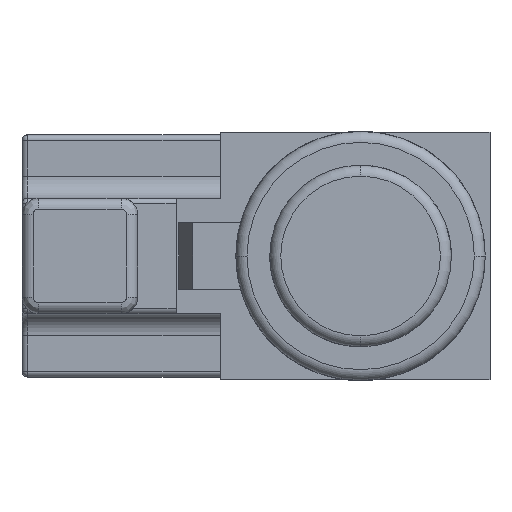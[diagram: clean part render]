
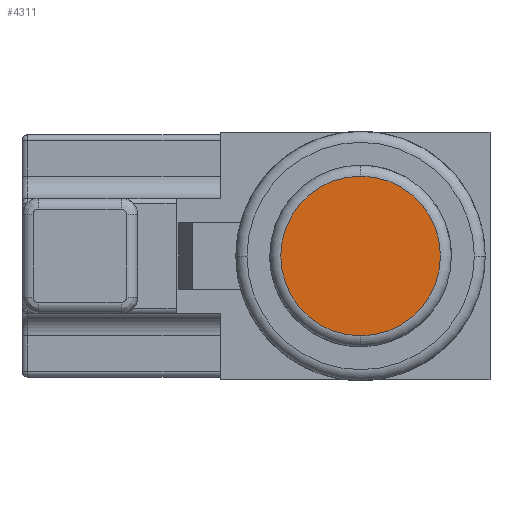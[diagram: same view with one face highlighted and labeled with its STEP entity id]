
A CAD part, left-side view. The second image highlights one B-rep face of the part: STEP entity #4311.
In plain terms, the highlighted planar face has unit normal (-1, 0, 0).
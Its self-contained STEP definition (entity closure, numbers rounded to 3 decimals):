
#46=CARTESIAN_POINT('',(-116.1,0.,0.));
#47=DIRECTION('',(1.,0.,0.));
#48=DIRECTION('',(0.,0.,1.));
#49=AXIS2_PLACEMENT_3D('',#46,#47,#48);
#51=CARTESIAN_POINT('',(-116.1,0.,0.));
#52=DIRECTION('',(1.,0.,0.));
#53=DIRECTION('',(0.,-1.,-0.001));
#54=AXIS2_PLACEMENT_3D('',#51,#52,#53);
#56=CARTESIAN_POINT('',(-116.1,0.,0.));
#57=DIRECTION('',(1.,0.,0.));
#58=DIRECTION('',(0.,0.,-1.));
#59=AXIS2_PLACEMENT_3D('',#56,#57,#58);
#61=CARTESIAN_POINT('',(-116.1,0.,0.));
#62=DIRECTION('',(1.,0.,0.));
#63=DIRECTION('',(0.,1.,0.001));
#64=AXIS2_PLACEMENT_3D('',#61,#62,#63);
#4056=CARTESIAN_POINT('',(-116.1,-14.5,-0.019));
#4057=CARTESIAN_POINT('',(-116.1,0.,-14.5));
#4058=VERTEX_POINT('',#4056);
#4059=VERTEX_POINT('',#4057);
#4060=CARTESIAN_POINT('',(-116.1,0.,14.5));
#4061=VERTEX_POINT('',#4060);
#4062=CARTESIAN_POINT('',(-116.1,14.5,0.019));
#4063=VERTEX_POINT('',#4062);
#4298=CARTESIAN_POINT('',(-116.1,0.,0.));
#4299=DIRECTION('',(-1.,0.,0.));
#4300=DIRECTION('',(0.,0.,1.));
#4301=AXIS2_PLACEMENT_3D('',#4298,#4299,#4300);
#4302=PLANE('',#4301);
#4303=ORIENTED_EDGE('',*,*,#4285,.T.);
#4304=ORIENTED_EDGE('',*,*,#4283,.T.);
#4306=ORIENTED_EDGE('',*,*,#4305,.T.);
#4308=ORIENTED_EDGE('',*,*,#4307,.T.);
#4309=EDGE_LOOP('',(#4303,#4304,#4306,#4308));
#4310=FACE_OUTER_BOUND('',#4309,.F.);
#50=CIRCLE('',#49,14.5);
#55=CIRCLE('',#54,14.5);
#60=CIRCLE('',#59,14.5);
#65=CIRCLE('',#64,14.5);
#4283=EDGE_CURVE('',#4058,#4059,#55,.T.);
#4285=EDGE_CURVE('',#4061,#4058,#50,.T.);
#4305=EDGE_CURVE('',#4059,#4063,#60,.T.);
#4307=EDGE_CURVE('',#4063,#4061,#65,.T.);
#4311=ADVANCED_FACE('',(#4310),#4302,.T.);
